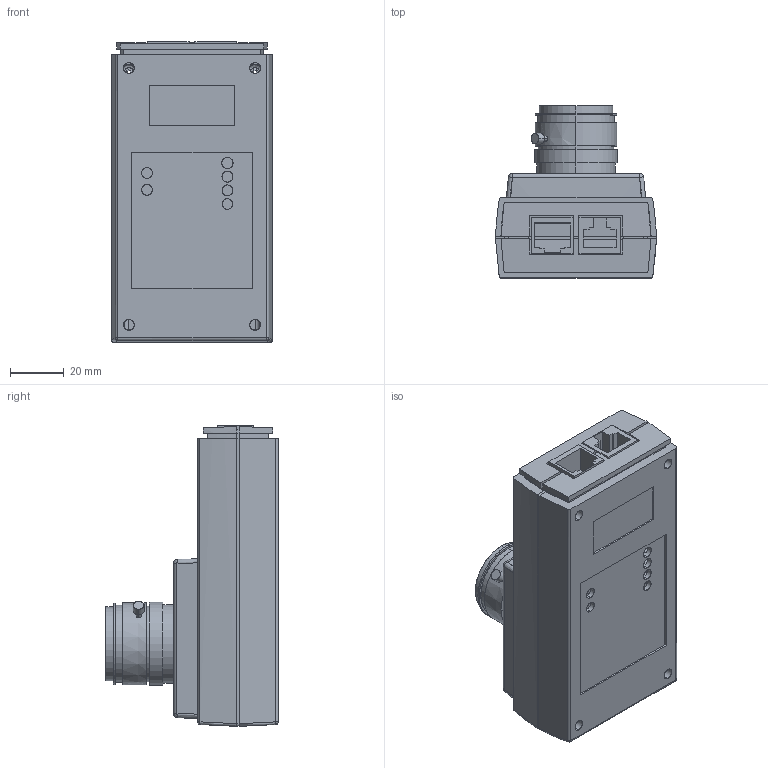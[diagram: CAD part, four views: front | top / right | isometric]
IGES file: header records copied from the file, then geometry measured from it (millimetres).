
Start section: SolidWorks IGES file using analytic representation for surfaces
Global section: file name: C:\Program Files\SolidWorks\DVT\Customer Models\IGES\Legend 500 Series.IGS; native system: SolidWorks 2005 by SolidWorks Corporation; preprocessor: SolidWorks 2005 by SolidWorks Corporation; author: George Deveau; date: 041208.092231; units: millimetre
Bounding box: 59.96 x 64.26 x 112.06 mm (x, y, z)
Surface area: 42226 mm2 (no closed solid volume)
Topology: 0 solids, 0 shells, 448 faces, 4032 edges, 4034 vertices
Faces by surface type: bspline 297, revolution 151
